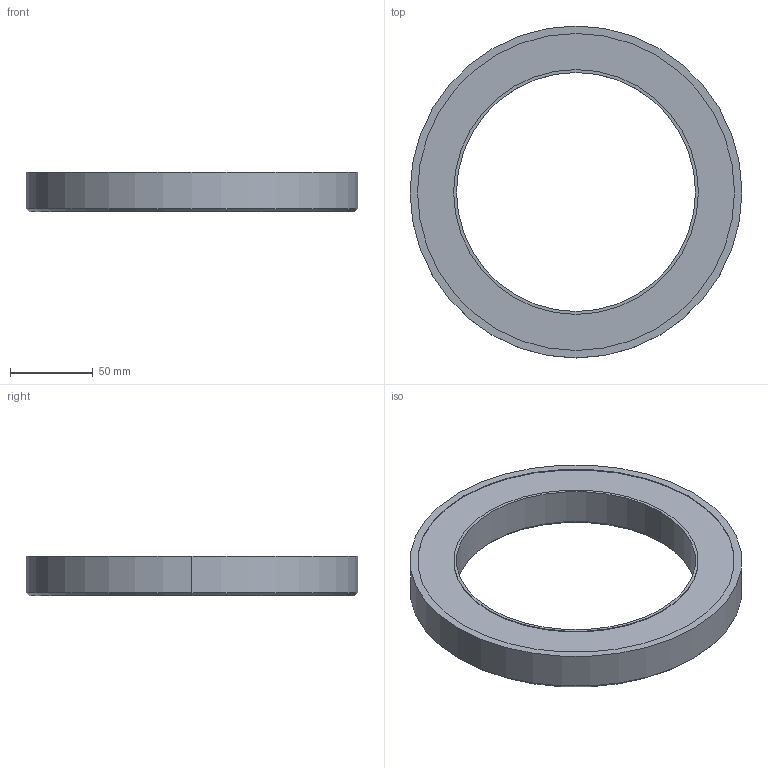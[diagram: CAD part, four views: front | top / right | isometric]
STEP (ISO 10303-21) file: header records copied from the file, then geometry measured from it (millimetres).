
FILE_DESCRIPTION((''),'2;1');
FILE_NAME('TRL-200','2019-06-28T',('ASUS'),(''),'PRO/ENGINEER BY PARAMETRIC TECHNOLOGY CORPORATION, 2008380','PRO/ENGINEER BY PARAMETRIC TECHNOLOGY CORPORATION, 2008380','');
FILE_SCHEMA(('CONFIG_CONTROL_DESIGN'));
Length unit declared in the file: millimetre
Products named in the file (1): TRL-200
Bounding box: 200 x 200 x 24 mm (x, y, z)
Volume: 354947.8 mm3; surface area: 55764 mm2
Topology: 1 solids, 1 shells, 28 faces, 56 edges, 36 vertices
Faces by surface type: cylinder 16, plane 8, cone 4
Entity records: 786 total; most frequent: DIRECTION 148, CARTESIAN_POINT 120, ORIENTED_EDGE 112, AXIS2_PLACEMENT_3D 64, EDGE_CURVE 56, VERTEX_POINT 36, EDGE_LOOP 36, CIRCLE 36
